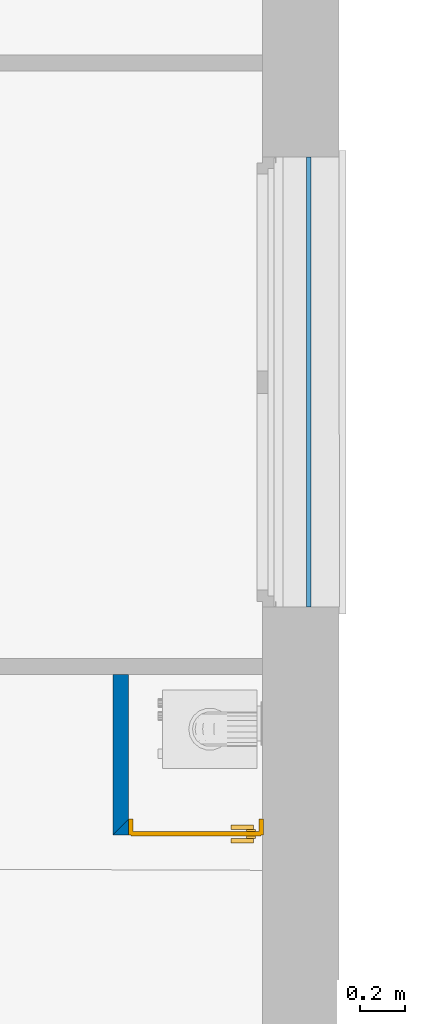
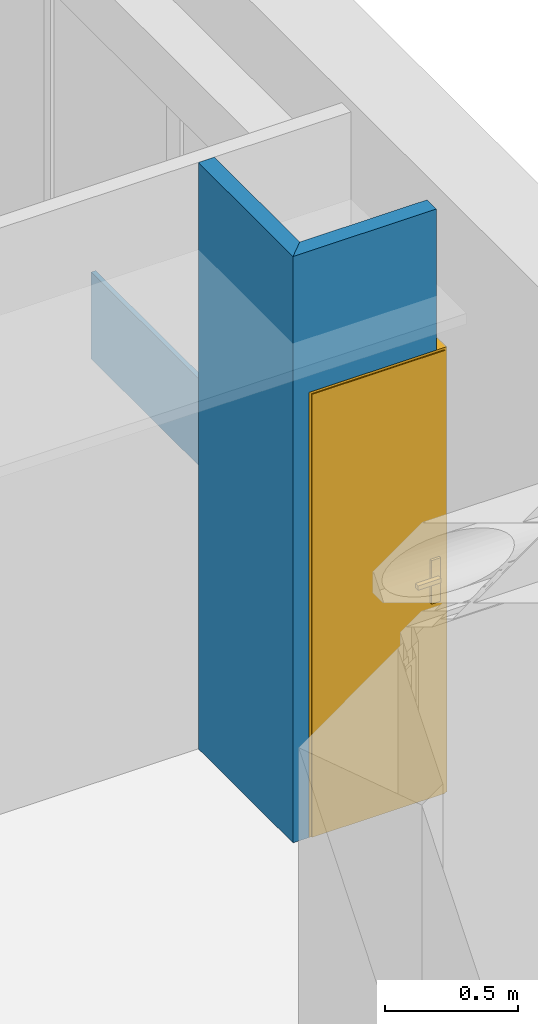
# One storey, part 16 of 164: 3 walls, 1 door, 1 opening.
"""IFC2X3 building model written with IfcOpenShell, lengths in millimetres."""

from ifc_helpers import new_model, entity, si_unit, converted_unit, derived_unit, money_unit, direction, frame, origin_with_axes, origin_2d_with_axis, place, context, subcontext, project, spatial, polyline, rectangle, outline, extrude, faceted_brep, source, transform, mapped, material, layer, layer_set, layer_usage, type_object, element, fill, save


model = new_model("IFC2X3")

# Units and contexts
model_context = context("Model", 3, precision=0.01, world=origin_with_axes(), true_north=direction((0.0, 1.0)))
body_context = subcontext(model_context, "Body", "Model", "MODEL_VIEW")
ifc_project = project(units=[si_unit("LENGTHUNIT", "METRE", prefix="MILLI"), si_unit("AREAUNIT", "SQUARE_METRE"), si_unit("VOLUMEUNIT", "CUBIC_METRE"), converted_unit("PLANEANGLEUNIT", "DEGREE", entity("IfcPlaneAngleMeasure", 0.0174532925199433), si_unit("PLANEANGLEUNIT", "RADIAN"), dimensions=[0, 0, 0, 0, 0, 0, 0]), money_unit("USD"), converted_unit("TIMEUNIT", "Year", entity("IfcTimeMeasure", 31557600.0), si_unit("TIMEUNIT", "SECOND"), dimensions=[0, 0, 1, 0, 0, 0, 0]), si_unit("MASSUNIT", "GRAM", prefix="KILO"), si_unit("THERMODYNAMICTEMPERATUREUNIT", "DEGREE_CELSIUS"), si_unit("LUMINOUSINTENSITYUNIT", "LUMEN"), si_unit("ENERGYUNIT", "JOULE", prefix="MEGA"), derived_unit("THERMALCONDUCTANCEUNIT", [(si_unit("POWERUNIT", "WATT"), 1), (si_unit("LENGTHUNIT", "METRE"), -1), (si_unit("THERMODYNAMICTEMPERATUREUNIT", "KELVIN"), -1)]), derived_unit("SPECIFICHEATCAPACITYUNIT", [(si_unit("ENERGYUNIT", "JOULE"), 1), (si_unit("MASSUNIT", "GRAM", prefix="KILO"), -1), (si_unit("THERMODYNAMICTEMPERATUREUNIT", "KELVIN"), -1)]), derived_unit("MASSDENSITYUNIT", [(si_unit("MASSUNIT", "GRAM", prefix="KILO"), 1), (si_unit("VOLUMEUNIT", "CUBIC_METRE"), -1)])], contexts=[model_context])

# Site, building, storey
site_placement = place(None, origin_with_axes())
site = spatial("IfcSite", under=ifc_project, at=site_placement, Name="Site", CompositionType="ELEMENT")
building_placement = place(site_placement, origin_with_axes())
building = spatial("IfcBuilding", under=site, at=building_placement, Name="Bâtiment", CompositionType="ELEMENT")
storey_placement = place(building_placement, frame((0.0, 0.0, 5750.0), z_axis=(0.0, 0.0, 1.0), x_axis=(1.0, 0.0, 0.0)))
storey = spatial("IfcBuildingStorey", under=building, at=storey_placement, Name="Etage1", CompositionType="ELEMENT", Elevation=5750.0)

# Wall, opening, door
ifc_material_1 = material(Name="Hachure solide 268963992")
ifc_layer_1 = layer(ifc_material_1, 70.0, ventilated="UNKNOWN")
ifc_layer_set_1 = layer_set([ifc_layer_1], Name="Cloison 70 0826278243")
ifc_layer_usage_1 = layer_usage(ifc_layer_set_1, "AXIS2", "NEGATIVE", 70.0)
wall_type_1 = type_object("IfcWallType", Name="Cloison 70 0826278243 70", PredefinedType="NOTDEFINED")
wall_1_placement = place(storey_placement, frame((2233350.851378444, -653126.9364621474, 0.0), z_axis=(0.0, 0.0, 1.0), x_axis=(1.0, 0.0, 0.0)))
wall_1 = element("IfcWallStandardCase", 1, at=wall_1_placement, inside=storey, type_object=wall_type_1, material=ifc_layer_usage_1, Name="Mur-149", context=body_context, shape_type="SweptSolid", body=[
    extrude(outline(polyline([(0.0, 0.0), (624.439567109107, 0.0), (624.439567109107, 69.99999999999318), (70.00000000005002, 69.99999999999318), (0.0, 0.0)])), origin_with_axes(), (0.0, 0.0, 1.0), 2700.0),
])
opening_placement = place(wall_1_placement, frame((370.0000000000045, 0.0, 0.0), z_axis=(0.0, 0.0, 1.0), x_axis=(1.0, 0.0, 0.0)))
opening = element("IfcOpeningElement", 2, at=opening_placement, cuts=wall_1, Name="Por-274", context=body_context, shape_type="SweptSolid", body=[
    extrude(rectangle(XDim=599.9999999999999, YDim=2050.0, at=origin_2d_with_axis()), frame((0.0, 69.99999999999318, 1025.0), z_axis=(0.0, -1.0, 0.0), x_axis=(-1.0, 0.0, 0.0)), (0.0, 0.0, 1.0), 140.0),
])
door_style = type_object("IfcDoorStyle", Name="Porte_1v", ConstructionType="NOTDEFINED", OperationType="NOTDEFINED", ParameterTakesPrecedence=False, Sizeable=False)
shared_shape = source(origin_with_axes(), body_context, "Body", "Brep", [
    faceted_brep([(300.0, 0.0, 0.0), (290.0, 0.0, 0.0), (290.0, 0.0, 2040.0), (-290.0, 0.0, 2040.0), (-290.0, 0.0, 0.0), (-300.0, 0.0, 0.0), (-300.0, 0.0, 2050.0), (300.0, 0.0, 2050.0), (300.0, -70.0, 0.0), (279.9999999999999, -70.0, 0.0), (279.9999999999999, -15.0, 0.0), (290.0, -15.0, 0.0), (290.0, -15.0, 2040.0), (-290.0, -15.0, 2040.0), (-290.0, -15.0, 0.0), (-279.9999999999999, -15.0, 0.0), (-279.9999999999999, -70.0, 0.0), (-300.0, -70.0, 0.0), (-300.0, -70.0, 2050.0), (300.0, -70.0, 2050.0), (-279.9999999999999, -70.0, 2030.0), (279.9999999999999, -70.0, 2030.0), (279.9999999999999, -15.0, 2030.0), (-279.9999999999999, -15.0, 2030.0)], [[[0, 1, 2, 3, 4, 5, 6, 7]], [[0, 8, 9, 10, 11, 1]], [[1, 11, 12, 2]], [[2, 12, 13, 3]], [[3, 13, 14, 4]], [[5, 4, 14, 15, 16, 17]], [[18, 6, 5, 17]], [[19, 7, 6, 18]], [[8, 0, 7, 19]], [[9, 8, 19, 18, 17, 16, 20, 21]], [[10, 9, 21, 22]], [[11, 10, 22, 23, 15, 14, 13, 12]], [[23, 20, 16, 15]], [[22, 21, 20, 23]]]),
    faceted_brep([(-224.9999999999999, -15.0, 900.0), (-264.9999999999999, -15.0, 900.0), (-264.9999999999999, -15.0, 1100.0), (-224.9999999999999, -15.0, 1100.0), (-224.9999999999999, -25.0, 900.0), (-264.9999999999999, -25.0, 900.0), (-264.9999999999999, -25.0, 1100.0), (-224.9999999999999, -25.0, 1100.0)], [[[0, 1, 2, 3]], [[1, 0, 4, 5]], [[2, 1, 5, 6]], [[3, 2, 6, 7]], [[0, 3, 7, 4]], [[5, 4, 7, 6]]]),
    faceted_brep([(-154.9999999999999, -25.0, 1000.0), (-254.9999999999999, -25.0, 1000.0), (-254.9999999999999, -25.0, 1020.0), (-154.9999999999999, -25.0, 1020.0), (-154.9999999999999, -45.0, 1000.0), (-254.9999999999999, -45.0, 1000.0), (-254.9999999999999, -45.0, 1020.0), (-154.9999999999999, -45.0, 1020.0)], [[[0, 1, 2, 3]], [[1, 0, 4, 5]], [[2, 1, 5, 6]], [[3, 2, 6, 7]], [[0, 3, 7, 4]], [[5, 4, 7, 6]]]),
    faceted_brep([(-224.9999999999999, 15.0, 900.0), (-264.9999999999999, 15.0, 900.0), (-264.9999999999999, 15.0, 1100.0), (-224.9999999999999, 15.0, 1100.0), (-224.9999999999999, 5.000000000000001, 900.0), (-264.9999999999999, 5.000000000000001, 900.0), (-264.9999999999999, 5.000000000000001, 1100.0), (-224.9999999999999, 5.000000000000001, 1100.0)], [[[0, 1, 2, 3]], [[1, 0, 4, 5]], [[2, 1, 5, 6]], [[3, 2, 6, 7]], [[0, 3, 7, 4]], [[5, 4, 7, 6]]]),
    faceted_brep([(-154.9999999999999, 35.0, 1000.0), (-254.9999999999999, 35.0, 1000.0), (-254.9999999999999, 35.0, 1020.0), (-154.9999999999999, 35.0, 1020.0), (-154.9999999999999, 15.0, 1000.0), (-254.9999999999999, 15.0, 1000.0), (-254.9999999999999, 15.0, 1020.0), (-154.9999999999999, 15.0, 1020.0)], [[[0, 1, 2, 3]], [[1, 0, 4, 5]], [[2, 1, 5, 6]], [[3, 2, 6, 7]], [[0, 3, 7, 4]], [[5, 4, 7, 6]]]),
    faceted_brep([(-290.0, 5.000000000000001, 0.0), (290.0, 5.000000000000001, 0.0), (290.0, -15.0, 0.0), (-290.0, -15.0, 0.0), (-290.0, 5.000000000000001, 2040.0), (290.0, 5.000000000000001, 2040.0), (290.0, -15.0, 2040.0), (-290.0, -15.0, 2040.0)], [[[0, 1, 2, 3]], [[0, 4, 5, 1]], [[1, 5, 6, 2]], [[3, 2, 6, 7]], [[4, 0, 3, 7]], [[5, 4, 7, 6]]]),
])
door_placement = place(opening_placement, frame((290.0000000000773, 0.0, 0.0), z_axis=(0.0, 0.0, 1.0), x_axis=(-1.0, 0.0, 0.0)))
door = element("IfcDoor", 3, at=door_placement, inside=storey, type_object=door_style, Name="Por-274", OverallHeight=2040.0, OverallWidth=580.0, context=body_context, shape_type="MappedRepresentation", body=[
    mapped(shared_shape, transform((289.9999999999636, 0.0, 0.0))),
])
fill(opening, door)

# Walls
ifc_layer_usage_2 = layer_usage(ifc_layer_set_1, "AXIS2", "NEGATIVE", 70.0)
wall_2_placement = place(storey_placement, frame((2233350.851378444, -652412.6142773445, 0.0), z_axis=(0.0, 0.0, 1.0), x_axis=(0.0, -1.0, 0.0)))
element("IfcWallStandardCase", 4, at=wall_2_placement, inside=storey, type_object=wall_type_1, material=ifc_layer_usage_2, Name="Mur-149", context=body_context, shape_type="SweptSolid", body=[
    extrude(outline(polyline([(0.0, 0.0), (714.3221848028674, 0.0), (644.3221848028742, 70.00000000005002), (-0.001283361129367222, 70.00000000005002), (0.0, 0.0)])), origin_with_axes(), (0.0, 0.0, 1.0), 2700.0),
])
ifc_material_2 = material(Name="MANQUANT")
ifc_layer_2 = layer(ifc_material_2, 20.0, ventilated="UNKNOWN")
ifc_layer_set_2 = layer_set([ifc_layer_2], Name="MANQUANT 20")
ifc_layer_usage_3 = layer_usage(ifc_layer_set_2, "AXIS2", "NEGATIVE", 20.0)
wall_type_2 = type_object("IfcWallType", Name="MANQUANT 20", PredefinedType="NOTDEFINED")
wall_3_placement = place(storey_placement, frame((2234233.084506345, -652113.6133498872, 99.99999999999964), z_axis=(0.0, 0.0, 1.0), x_axis=(-0.0007973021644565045, 0.9999996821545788, 0.0)))
element("IfcWallStandardCase", 5, at=wall_3_placement, inside=storey, type_object=wall_type_2, material=ifc_layer_usage_3, Name="Mur-150", context=body_context, shape_type="SweptSolid", body=[
    extrude(outline(polyline([(0.0, 0.0), (1999.99999989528, 0.0), (1999.99999989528, 19.99999999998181), (0.0, 19.99999999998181), (0.0, 0.0)])), origin_with_axes(), (0.0, 0.0, 1.0), 400.0),
])

save(model, "model.ifc")
